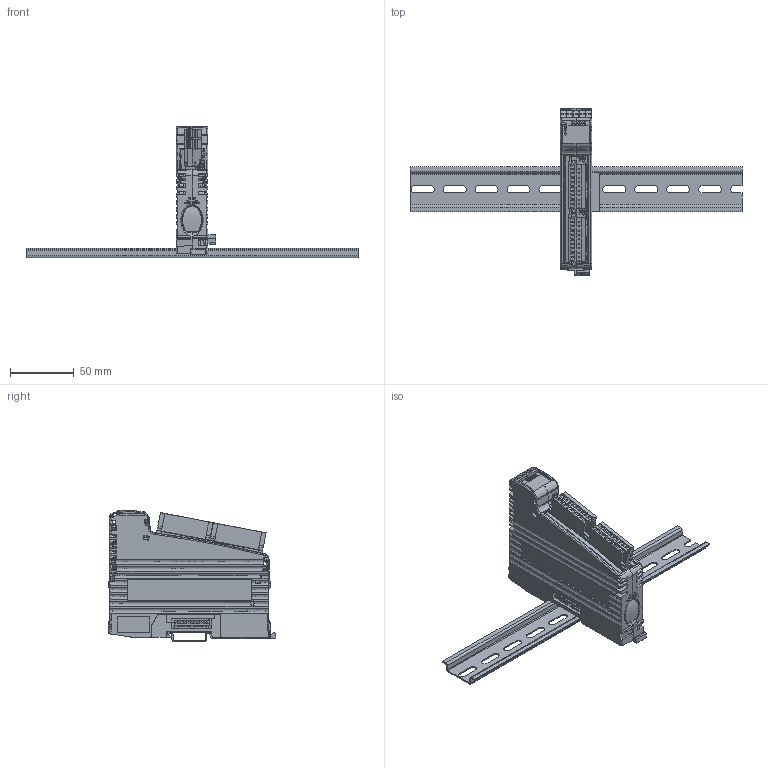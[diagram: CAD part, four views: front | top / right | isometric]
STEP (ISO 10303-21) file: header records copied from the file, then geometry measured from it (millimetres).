
FILE_DESCRIPTION(/* description */ ('FG'),/* implementation_level */ '2;1');
FILE_NAME(/* name */ 'FG_JX3-DMS2_001_00',/* time_stamp */ '2016-06-24T14:16:27+02:00',/* author */ ('T. Busch'),/* organization */ ('Jetter AG'),/* preprocessor_version */ 'ST-DEVELOPER v16.7',/* originating_system */ 'DEX',/* authorisation */ $);
FILE_SCHEMA (('AUTOMOTIVE_DESIGN {1 0 10303 214 3 1 1}'));
Products named in the file (20): FG_JX3-DMS2_001_00; GE_JX3_DMS2_001_00; Sw-LI_JX3_001_00; PCBY_JX3-DMS2_001_01_M00; PCB_JX3-DMS2_001_01_M00; ST_10_E_WI_RM3_5_LS; FO_JX3-DMS2_001_00; BL_JX3-DMS2_029_00; Sw-RE_JX3_001_00; Mk_JX3_001_03; BOY_JX3-BP_A1_001_01; Bo_JX3_001_01; De_JX3_001_00; PCBY_JX3-BP_001_03; PCB_JX3-BP_001_03; BU_10_E_WI_RM2_54; ST_10_E_WI_RM2_54; BLZF_3_5_10_F_SN_SW_1691190000; KT_Din_Schiene_Niedrig; Bc_Weidmüller_001
Assembly tree (25 placements, depth 4):
  FG_JX3-DMS2_001_00
    GE_JX3_DMS2_001_00
      Sw-LI_JX3_001_00
      PCBY_JX3-DMS2_001_01_M00
        PCB_JX3-DMS2_001_01_M00
        ST_10_E_WI_RM3_5_LS  x2
      FO_JX3-DMS2_001_00
      BL_JX3-DMS2_029_00
      Sw-RE_JX3_001_00
      Mk_JX3_001_03
    BOY_JX3-BP_A1_001_01
      Bo_JX3_001_01
      De_JX3_001_00
      PCBY_JX3-BP_001_03
        PCB_JX3-BP_001_03
        BU_10_E_WI_RM2_54
        ST_10_E_WI_RM2_54
    BLZF_3_5_10_F_SN_SW_1691190000  x2
    KT_Din_Schiene_Niedrig
    Bc_Weidmüller_001  x5
Bounding box: 260 x 131.39 x 102.91 mm (x, y, z)
Surface area: 119217.4 mm2
Topology: 27 solids, 28 shells, 5500 faces, 15097 edges, 9804 vertices
Faces by surface type: plane 4100, cylinder 789, bspline 263, cone 206, torus 72, sphere 70
Full cylindrical faces by diameter (mm): 0.05 x4, 0.6 x30, 0.75 x10, 0.8 x6, 0.9 x10, 1 x30, 1.5 x24, 1.567 x4, 2.5 x2, 2.9 x4, 3.3 x2
Entity records: 178949 total; most frequent: CARTESIAN_POINT 55043, ORIENTED_EDGE 23698, DIRECTION 21394, EDGE_CURVE 11849, LINE 9296, VECTOR 9296, VERTEX_POINT 7849, AXIS2_PLACEMENT_3D 6049
